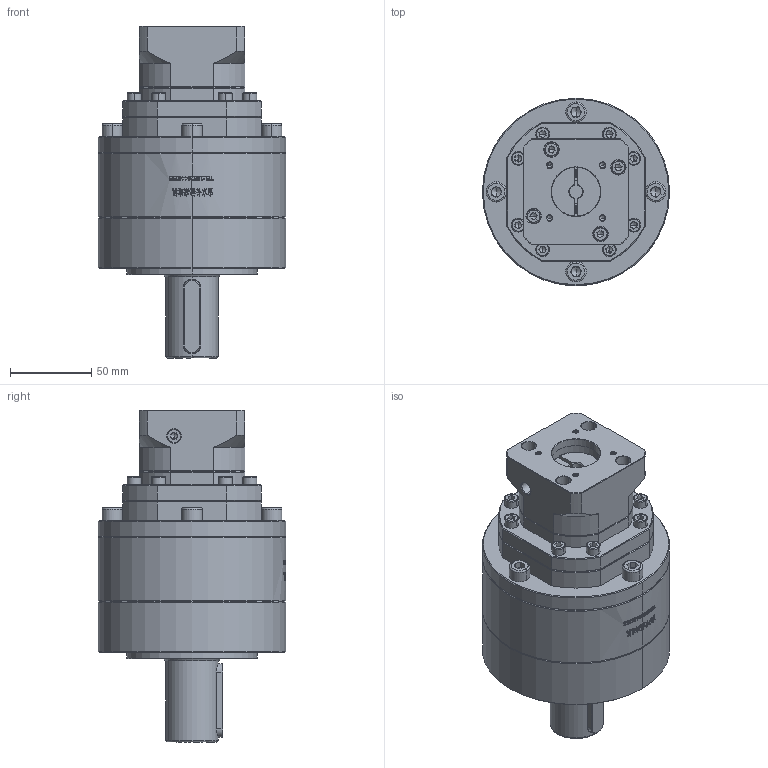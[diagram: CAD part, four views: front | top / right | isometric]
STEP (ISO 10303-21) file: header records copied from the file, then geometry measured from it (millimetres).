
FILE_DESCRIPTION (( 'STEP AP214' ), '1' );
FILE_NAME ('ZE120A-D32-L3-8-30-46-M4.step', '2023-03-09T15:38:49', ( '' ), ( 'Microsoft' ), 'SwSTEP 2.0', 'SolidWorks 2016', '' );
FILE_SCHEMA (( 'AUTOMOTIVE_DESIGN' ));
Length unit declared in the file: millimetre
Products named in the file (1): ZE120A-D32-L3-8-30-46-M4
Bounding box: 115 x 115 x 204 mm (x, y, z)
Volume: 1174082.8 mm3; surface area: 112292.1 mm2
Topology: 7 solids, 7 shells, 2157 faces, 5707 edges, 3652 vertices
Faces by surface type: plane 981, cylinder 509, bspline 349, cone 296, torus 22
Entity records: 118576 total; most frequent: CARTESIAN_POINT 45951, ORIENTED_EDGE 11290, DIRECTION 8686, EDGE_CURVE 5645, VERTEX_POINT 3652, LINE 3016, VECTOR 3016, AXIS2_PLACEMENT_3D 2835
